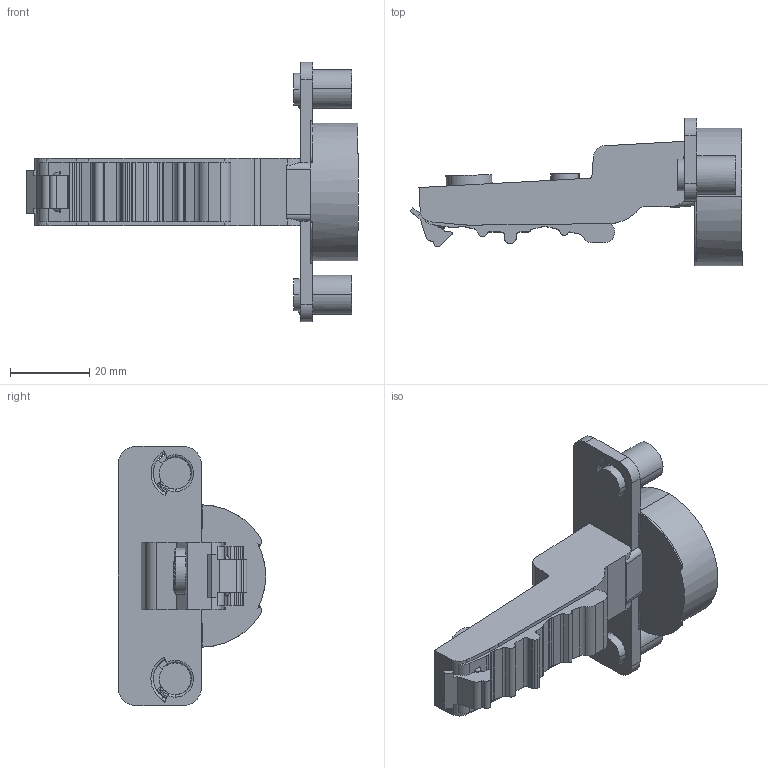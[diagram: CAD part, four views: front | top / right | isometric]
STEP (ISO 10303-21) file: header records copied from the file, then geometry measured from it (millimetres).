
FILE_DESCRIPTION (( 'STEP AP203' ), '1' );
FILE_NAME ('C82B677T0FA-DTC 3D close.STEP', '2024-07-10T09:07:56', ( '微软用户' ), ( '微软中国' ), 'SwSTEP 2.0', 'SolidWorks 2021', '' );
FILE_SCHEMA (( 'CONFIG_CONTROL_DESIGN' ));
Length unit declared in the file: millimetre
Products named in the file (1): C82B677T0FA-DTC 3D close
Bounding box: 83.97 x 37.28 x 65.56 mm (x, y, z)
Volume: 33656.5 mm3; surface area: 11280 mm2
Topology: 1 solids, 6 shells, 362 faces, 989 edges, 641 vertices
Faces by surface type: cylinder 148, plane 142, torus 54, bspline 14, cone 4
Entity records: 12160 total; most frequent: CARTESIAN_POINT 2907, ORIENTED_EDGE 1978, DIRECTION 1941, EDGE_CURVE 989, AXIS2_PLACEMENT_3D 733, VERTEX_POINT 641, VECTOR 475, LINE 475
